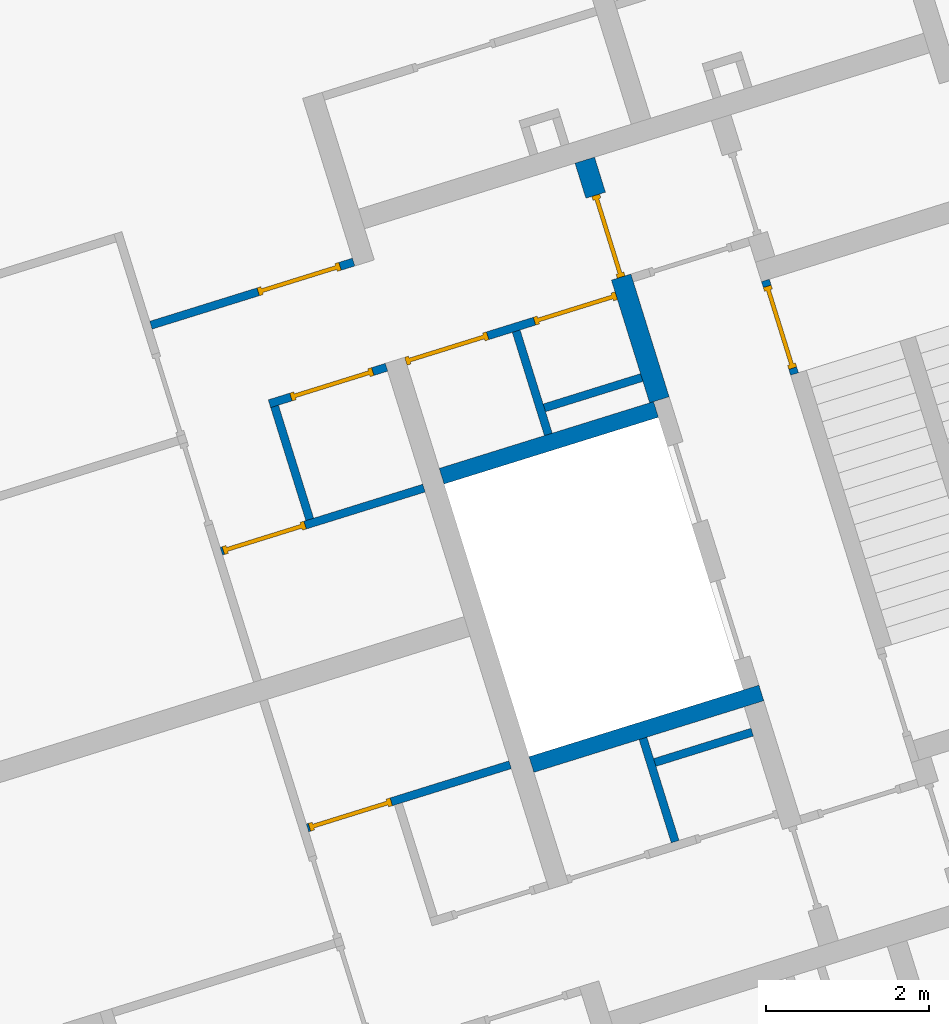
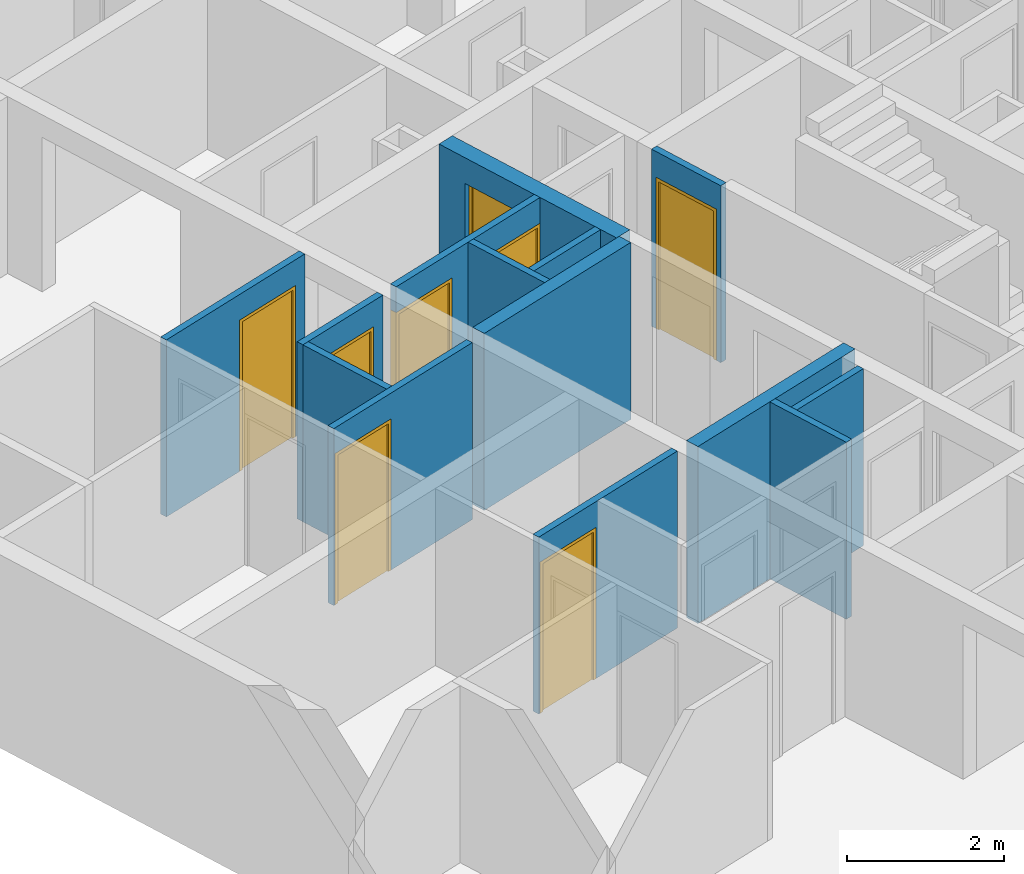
# One storey, part 5 of 12: 14 walls, 8 doors, 8 openings.
"""IFC4 building model written with IfcOpenShell, lengths in metres."""

from ifc_helpers import new_model, entity, si_unit, converted_unit, direction, frame, origin, place, context, subcontext, project, spatial, indexed_curve, outline, extrude, polygons, source, transform, mapped, material, constituent, constituent_set, type_object, type_shapes, element, fill, save


model = new_model("IFC4")

# Units and contexts
model_context = context("Model", 3, precision=1e-05, world=origin(), true_north=direction((6.12323399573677e-17, 1.0)))
body_context = subcontext(model_context, "Body", "Model", "MODEL_VIEW")
ifc_project = project(units=[si_unit("LENGTHUNIT", "METRE"), si_unit("AREAUNIT", "SQUARE_METRE"), si_unit("VOLUMEUNIT", "CUBIC_METRE"), converted_unit("PLANEANGLEUNIT", "DEGREE", entity("IfcPlaneAngleMeasure", 0.0174532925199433), si_unit("PLANEANGLEUNIT", "RADIAN"), dimensions=[0, 0, 0, 0, 0, 0, 0])], contexts=[model_context])

# Site, building, storey
site_placement = place(None, frame((13.1347999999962, 11.9886000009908, 0.0), z_axis=(0.0, 0.0, 1.0), x_axis=(0.954770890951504, 0.297342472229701, 0.0)))
site = spatial("IfcSite", under=ifc_project, at=site_placement, Name="Schiehaven", CompositionType="ELEMENT")
building_placement = place(site_placement, origin())
building = spatial("IfcBuilding", under=site, at=building_placement, Name="VORM huis", CompositionType="ELEMENT")
storey_placement = place(building_placement, frame((0.0, 0.0, 3.9)))
storey = spatial("IfcBuildingStorey", under=building, at=storey_placement, Name="01 eerste verdieping", CompositionType="ELEMENT", Elevation=3.9)

# Walls
ifc_material_1 = material(Name="beton_gewapend_prefab-element", Category="Miscellaneous")
wall_type_1 = type_object("IfcWallType", Name="Basic Wall:28_WA_skelet_wand 200mm_gen", PredefinedType="STANDARD")
wall_1_placement = place(storey_placement, frame((12.6250000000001, 15.2, 0.0)))
element("IfcWall", 1, at=wall_1_placement, inside=storey, type_object=wall_type_1, material=ifc_material_1, Name="Constructieve wand", ObjectType="Wand", PredefinedType="NOTDEFINED", context=body_context, shape_type="SweptSolid", body=[
    extrude(outline(indexed_curve([(2.95, 0.100000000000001), (-3.51397851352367e-16, 0.100000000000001), (3.51397851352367e-16, -0.100000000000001), (2.95, -0.100000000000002), (2.95, 0.100000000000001)], self_intersect=False)), origin(), (0.0, 0.0, 1.0), 2.75),
])
wall_2_placement = place(storey_placement, frame((15.3750000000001, 18.9, 0.0), z_axis=(0.0, 0.0, 1.0), x_axis=(-1.0, 0.0, 0.0)))
element("IfcWall", 2, at=wall_2_placement, inside=storey, type_object=wall_type_1, material=ifc_material_1, Name="Constructieve wand", ObjectType="Wand", PredefinedType="NOTDEFINED", context=body_context, shape_type="SweptSolid", body=[
    extrude(outline(indexed_curve([(2.75, 0.100000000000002), (-2.05391259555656e-16, 0.100000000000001), (2.05391259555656e-16, -0.100000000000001), (2.75, -0.0999999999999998), (2.75, 0.100000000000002)], self_intersect=False)), origin(), (0.0, 0.0, 1.0), 2.75),
])

# Wall, opening, door
ifc_material_2 = material(Name="ntb_ntb_ntb", Category="Miscellaneous")
wall_type_2 = type_object("IfcWallType", Name="Basic Wall:22_WA_afbouw_binnenwand 250mm_gen", PredefinedType="STANDARD")
wall_3_placement = place(storey_placement, frame((15.4500000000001, 19.0, 0.0), z_axis=(0.0, 0.0, 1.0), x_axis=(0.0, 1.0, 0.0)))
wall_3 = element("IfcWall", 3, at=wall_3_placement, inside=storey, type_object=wall_type_2, material=ifc_material_2, Name="Binnenwand", ObjectType="Wand", PredefinedType="NOTDEFINED", context=body_context, shape_type="Tessellation", body=[
    polygons([(2.62500000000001, -0.124999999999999, 2.34999999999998), (2.62500000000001, -0.124999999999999, -5.41433564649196e-16), (3.075, -0.124999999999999, -5.41433564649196e-16), (3.075, -0.124999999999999, 2.75), (1.575, -0.124999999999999, 2.75), (1.475, -0.124999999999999, 2.75), (2.16573425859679e-15, -0.124999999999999, 2.75), (2.16573425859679e-15, -0.124999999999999, -5.41433564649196e-16), (1.475, -0.124999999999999, 0.0), (1.57500000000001, -0.124999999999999, -5.41433564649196e-16), (1.57500000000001, -0.124999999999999, 2.34999999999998), (3.075, 0.125000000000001, -5.41433564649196e-16), (2.62500000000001, 0.125000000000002, -5.41433564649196e-16), (2.62500000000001, 0.125000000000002, 2.34999999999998), (1.575, 0.125000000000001, 2.34999999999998), (1.575, 0.125000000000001, -5.41433564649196e-16), (0.0, 0.125000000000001, -5.41433564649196e-16), (0.0, 0.125000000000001, 2.75), (3.075, 0.125000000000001, 2.75)], [[[1, 2, 3, 4, 5, 6, 7, 8, 9, 10, 11]], [[12, 13, 14, 15, 16, 17, 18, 19]], [[10, 9, 8, 17, 16]], [[4, 3, 12, 19]], [[7, 6, 5, 4, 19, 18]], [[8, 7, 18, 17]], [[16, 15, 11, 10]], [[14, 13, 2, 1]], [[15, 14, 1, 11]], [[3, 2, 13, 12]]], closed=True),
])
opening_1_placement = place(wall_3_placement, frame((2.62500000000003, 0.124999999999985, 0.0)))
opening_1 = element("IfcOpeningElement", 4, at=opening_1_placement, cuts=wall_3, Name="Woningtoegangsdeur", PredefinedType="OPENING", context=body_context, shape_type="SweptSolid", body=[
    extrude(outline(indexed_curve([(2.34999999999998, 1.05), (0.0, 1.05), (0.0, 0.0), (2.34999999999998, 0.0), (2.34999999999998, 1.05)], self_intersect=False)), frame((0.0, 0.0, 0.0), z_axis=(0.0, -1.0, 0.0), x_axis=(0.0, 0.0, 1.0)), (0.0, 0.0, 1.0), 0.25),
])
ifc_material_3 = material(Name="PD_a_binnenwandopeningen", Category="Miscellaneous")
ifc_constituent_1 = constituent(ifc_material_3, Name="PD_a_binnenwandopeningen", Category="Miscellaneous")
ifc_material_4 = material(Name="metaal_aluminium_ntb", Category="Miscellaneous")
ifc_constituent_2 = constituent(ifc_material_4, Name="metaal_aluminium_ntb", Category="Miscellaneous")
ifc_constituent_set_1 = constituent_set(constituents=[ifc_constituent_1, ifc_constituent_2])
door_type_1 = type_object("IfcDoorType", Name="32_DO_binnendeur enkel:woningtoegangsdeur", OperationType="REVOLVING", PredefinedType="DOOR")
shared_shape_1 = source(origin(), body_context, "Body", "SweptSolid", [
    extrude(outline(indexed_curve([(-1.16249999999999, -0.525000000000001), (1.18749999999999, -0.525), (1.18749999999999, 0.525000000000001), (-1.16249999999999, 0.525000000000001), (-1.16249999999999, 0.475), (1.13749999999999, 0.475), (1.13749999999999, -0.475), (-1.16249999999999, -0.475), (-1.16249999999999, -0.525000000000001)], self_intersect=False)), frame((0.525000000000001, 0.0749999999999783, 1.16249999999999), z_axis=(0.0, 1.0, 0.0), x_axis=(0.0, 0.0, 1.0)), (0.0, 0.0, 1.0), 0.1),
    extrude(outline(indexed_curve([(-0.025, -0.475), (0.025, -0.475), (0.025, 0.475), (-0.025, 0.475), (-0.025, -0.475)], self_intersect=False)), frame((0.525000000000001, 0.12499999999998, 0.0), z_axis=(0.0, 0.0, 1.0), x_axis=(0.0, 1.0, 0.0)), (0.0, 0.0, 1.0), 2.29999999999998),
])
type_shapes(door_type_1, [shared_shape_1])
door_1_placement = place(opening_1_placement, frame((0.0, 0.0, 0.0), z_axis=(0.0, 0.0, 1.0), x_axis=(-1.0, 0.0, 0.0)))
door_1 = element("IfcDoor", 5, at=door_1_placement, inside=storey, type_object=door_type_1, material=ifc_constituent_set_1, Name="Woningtoegangsdeur", ObjectType="Deur", OperationType="REVOLVING", OverallHeight=2.34999999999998, OverallWidth=1.05, PredefinedType="DOOR", context=body_context, shape_type="MappedRepresentation", body=[
    mapped(shared_shape_1, transform((0.0, 0.0, 0.0), scale=1.0)),
])
fill(opening_1, door_1)

wall_type_3 = type_object("IfcWallType", Name="Basic Wall:22_WA_afbouw_binnenwand 100mm_gen", PredefinedType="STANDARD")
wall_4_placement = place(storey_placement, frame((17.1250000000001, 20.01, 0.0), z_axis=(0.0, 0.0, 1.0), x_axis=(0.0, -1.0, 0.0)))
wall_4 = element("IfcWall", 6, at=wall_4_placement, inside=storey, type_object=wall_type_3, material=ifc_material_2, Name="Binnenwand", ObjectType="Wand", PredefinedType="NOTDEFINED", context=body_context, shape_type="Tessellation", body=[
    polygons([(1.19999999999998, -0.050000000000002, -5.41433564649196e-16), (1.19999999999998, -0.050000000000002, 2.75), (0.0, -0.0500000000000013, 2.75), (0.0, -0.0500000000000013, -5.41433564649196e-16), (0.0749999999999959, -0.0500000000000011, -5.41433564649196e-16), (0.0749999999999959, -0.0500000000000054, 2.34999999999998), (1.125, -0.0500000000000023, 2.34999999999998), (1.125, -0.0500000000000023, -5.41433564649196e-16), (1.19999999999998, 0.0499999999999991, 2.75), (1.19999999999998, 0.0499999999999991, -5.41433564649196e-16), (1.125, 0.0499999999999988, -5.41433564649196e-16), (1.125, 0.0499999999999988, 2.34999999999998), (0.0749999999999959, 0.0499999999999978, 2.34999999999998), (0.0749999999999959, 0.0499999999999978, -5.41433564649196e-16), (0.0, 0.0500000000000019, -5.41433564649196e-16), (0.0, 0.0500000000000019, 2.75)], [[[1, 2, 3, 4, 5, 6, 7, 8]], [[9, 10, 11, 12, 13, 14, 15, 16]], [[4, 15, 14, 5]], [[2, 1, 10, 9]], [[3, 2, 9, 16]], [[4, 3, 16, 15]], [[13, 6, 5, 14]], [[6, 13, 12, 7]], [[7, 12, 11, 8]], [[10, 1, 8, 11]]], closed=True),
])
opening_2_placement = place(wall_4_placement, frame((0.0749999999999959, -0.0499999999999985, 0.0)))
opening_2 = element("IfcOpeningElement", 7, at=opening_2_placement, cuts=wall_4, Name="Vluchtdeur", PredefinedType="OPENING", context=body_context, shape_type="SweptSolid", body=[
    extrude(outline(indexed_curve([(2.34999999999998, 1.05), (0.0, 1.05), (0.0, -3.51974282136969e-30), (2.34999999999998, -3.51974282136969e-30), (2.34999999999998, 1.05)], self_intersect=False)), frame((0.0, 0.0, 0.0), z_axis=(0.0, 1.0, 0.0), x_axis=(0.0, 0.0, 1.0)), (0.0, 0.0, 1.0), 0.1),
])
ifc_constituent_3 = constituent(ifc_material_3, Name="PD_a_binnenwandopeningen", Category="Miscellaneous")
ifc_constituent_4 = constituent(ifc_material_4, Name="metaal_aluminium_ntb", Category="Miscellaneous")
ifc_constituent_set_2 = constituent_set(constituents=[ifc_constituent_3, ifc_constituent_4])
door_type_2 = type_object("IfcDoorType", Name="32_DO_binnendeur enkel:binnendeur zelfsluitend 30min", OperationType="NOTDEFINED", PredefinedType="DOOR")
shared_shape_2 = source(origin(), body_context, "Body", "SweptSolid", [
    extrude(outline(indexed_curve([(-1.16249999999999, -0.525000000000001), (1.18749999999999, -0.525), (1.18749999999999, 0.525), (-1.16249999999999, 0.525), (-1.16249999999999, 0.475), (1.13749999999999, 0.475), (1.13749999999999, -0.475), (-1.16249999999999, -0.475), (-1.16249999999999, -0.525000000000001)], self_intersect=False)), frame((0.525000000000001, 0.0, 1.16249999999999), z_axis=(0.0, 1.0, 0.0), x_axis=(0.0, 0.0, 1.0)), (0.0, 0.0, 1.0), 0.1),
    extrude(outline(indexed_curve([(-0.025, -0.475), (0.025, -0.475), (0.025, 0.475), (-0.025, 0.475), (-0.025, -0.475)], self_intersect=False)), frame((0.525000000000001, 0.0499999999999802, 0.0), z_axis=(0.0, 0.0, 1.0), x_axis=(0.0, 1.0, 0.0)), (0.0, 0.0, 1.0), 2.29999999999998),
])
type_shapes(door_type_2, [shared_shape_2])
door_2_placement = place(opening_2_placement, origin())
door_2 = element("IfcDoor", 8, at=door_2_placement, inside=storey, type_object=door_type_2, material=ifc_constituent_set_2, Name="Vluchtdeur", ObjectType="Deur", OperationType="NOTDEFINED", OverallHeight=2.34999999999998, OverallWidth=1.05, PredefinedType="DOOR", context=body_context, shape_type="MappedRepresentation", body=[
    mapped(shared_shape_2, transform((0.0, 0.0, 0.0), scale=1.0)),
])
fill(opening_2, door_2)

wall_5_placement = place(storey_placement, frame((9.77500000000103, 15.275, 0.0)))
wall_5 = element("IfcWall", 9, at=wall_5_placement, inside=storey, type_object=wall_type_3, material=ifc_material_2, Name="Binnenwand", ObjectType="Wand", PredefinedType="NOTDEFINED", context=body_context, shape_type="Tessellation", body=[
    polygons([(1.07500000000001, -0.0499999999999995, 2.34999999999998), (1.07500000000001, -0.0499999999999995, -5.41433564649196e-16), (1.1, -0.0499999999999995, 0.0), (1.2, -0.0499999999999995, 0.0), (2.59999999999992, -0.0499999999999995, -5.41433564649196e-16), (2.59999999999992, -0.0499999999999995, 2.75), (1.2, -0.0499999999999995, 2.75), (1.1, -0.0499999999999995, 2.75), (4.07664011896e-16, -0.0499999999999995, 2.75), (4.07664011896e-16, -0.0499999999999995, -5.41433564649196e-16), (0.025000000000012, -0.0499999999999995, -5.41433564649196e-16), (0.025000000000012, -0.0499999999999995, 2.34999999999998), (2.59999999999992, 0.0499999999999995, -5.41433564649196e-16), (1.07500000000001, 0.0499999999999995, -5.41433564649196e-16), (1.07500000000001, 0.0499999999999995, 2.34999999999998), (0.0250000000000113, 0.0499999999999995, 2.34999999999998), (0.0250000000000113, 0.0499999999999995, -5.41433564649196e-16), (-3.72025447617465e-16, 0.0499999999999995, -5.41433564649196e-16), (-3.72025447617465e-16, 0.0499999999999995, 2.75), (2.59999999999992, 0.0499999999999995, 2.75)], [[[1, 2, 3, 4, 5, 6, 7, 8, 9, 10, 11, 12]], [[13, 14, 15, 16, 17, 18, 19, 20]], [[11, 10, 18, 17]], [[6, 5, 13, 20]], [[9, 8, 7, 6, 20, 19]], [[17, 16, 12, 11]], [[15, 14, 2, 1]], [[16, 15, 1, 12]], [[10, 9, 19, 18]], [[5, 4, 3, 2, 14, 13]]], closed=True),
])
opening_3_placement = place(wall_5_placement, frame((1.07500000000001, 0.0499999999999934, 0.0)))
opening_3 = element("IfcOpeningElement", 10, at=opening_3_placement, cuts=wall_5, Name="Binnendeur", PredefinedType="OPENING", context=body_context, shape_type="SweptSolid", body=[
    extrude(outline(indexed_curve([(2.34999999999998, 1.05), (0.0, 1.05), (0.0, 1.35358391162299e-15), (2.34999999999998, 1.35358391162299e-15), (2.34999999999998, 1.05)], self_intersect=False)), frame((0.0, 0.0, 0.0), z_axis=(0.0, -1.0, 0.0), x_axis=(0.0, 0.0, 1.0)), (0.0, 0.0, 1.0), 0.1),
])
ifc_constituent_5 = constituent(ifc_material_3, Name="PD_a_binnenwandopeningen", Category="Miscellaneous")
ifc_constituent_6 = constituent(ifc_material_4, Name="metaal_aluminium_ntb", Category="Miscellaneous")
ifc_constituent_set_3 = constituent_set(constituents=[ifc_constituent_5, ifc_constituent_6])
door_type_3 = type_object("IfcDoorType", Name="32_DO_binnendeur enkel:binnendeur", OperationType="REVOLVING", PredefinedType="DOOR")
shared_shape_3 = source(origin(), body_context, "Body", "SweptSolid", [
    extrude(outline(indexed_curve([(-1.16249999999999, -0.525000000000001), (1.18749999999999, -0.525), (1.18749999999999, 0.525), (-1.16249999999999, 0.525), (-1.16249999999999, 0.475), (1.13749999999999, 0.475), (1.13749999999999, -0.475), (-1.16249999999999, -0.475), (-1.16249999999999, -0.525000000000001)], self_intersect=False)), frame((0.525000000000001, 0.0, 1.16249999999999), z_axis=(0.0, 1.0, 0.0), x_axis=(0.0, 0.0, 1.0)), (0.0, 0.0, 1.0), 0.1),
    extrude(outline(indexed_curve([(-0.025, -0.475), (0.025, -0.475), (0.025, 0.475), (-0.025, 0.475), (-0.025, -0.475)], self_intersect=False)), frame((0.525000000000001, 0.0499999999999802, 0.0), z_axis=(0.0, 0.0, 1.0), x_axis=(0.0, 1.0, 0.0)), (0.0, 0.0, 1.0), 2.29999999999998),
])
type_shapes(door_type_3, [shared_shape_3])
door_3_placement = place(opening_3_placement, frame((0.0, 0.0, 0.0), z_axis=(0.0, 0.0, 1.0), x_axis=(-1.0, 0.0, 0.0)))
door_3 = element("IfcDoor", 11, at=door_3_placement, inside=storey, type_object=door_type_3, material=ifc_constituent_set_3, Name="Binnendeur", ObjectType="Deur", OperationType="REVOLVING", OverallHeight=2.34999999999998, OverallWidth=1.05, PredefinedType="DOOR", context=body_context, shape_type="MappedRepresentation", body=[
    mapped(shared_shape_3, transform((0.0, 0.0, 0.0), scale=1.0)),
])
fill(opening_3, door_3)

# Walls
wall_6_placement = place(storey_placement, frame((15.3250000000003, 14.7749999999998, 0.0), z_axis=(0.0, 0.0, 1.0), x_axis=(-1.0, 0.0, 0.0)))
element("IfcWall", 12, at=wall_6_placement, inside=storey, type_object=wall_type_3, material=ifc_material_2, Name="Binnenwand", ObjectType="Wand", PredefinedType="NOTDEFINED", context=body_context, shape_type="SweptSolid", body=[
    extrude(outline(indexed_curve([(1.24999999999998, 0.0499999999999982), (-6.43958434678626e-16, 0.0499999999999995), (6.43958434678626e-16, -0.0499999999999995), (1.24999999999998, -0.0500000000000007), (1.24999999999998, 0.0499999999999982)], self_intersect=False)), origin(), (0.0, 0.0, 1.0), 2.75),
])
wall_7_placement = place(storey_placement, frame((14.0250000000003, 13.7749999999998, 0.0), z_axis=(0.0, 0.0, 1.0), x_axis=(0.0, 1.0, 0.0)))
element("IfcWall", 13, at=wall_7_placement, inside=storey, type_object=wall_type_3, material=ifc_material_2, Name="Binnenwand", ObjectType="Wand", PredefinedType="NOTDEFINED", context=body_context, shape_type="SweptSolid", body=[
    extrude(outline(indexed_curve([(1.32500000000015, 0.0499999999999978), (-4.26239117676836e-16, 0.0499999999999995), (4.26239117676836e-16, -0.0499999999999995), (1.32500000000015, -0.0500000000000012), (1.32500000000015, 0.0499999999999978)], self_intersect=False)), origin(), (0.0, 0.0, 1.0), 2.75),
])

# Wall, opening, door
wall_8_placement = place(storey_placement, frame((9.77500000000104, 18.825, 0.0)))
wall_8 = element("IfcWall", 14, at=wall_8_placement, inside=storey, type_object=wall_type_3, material=ifc_material_2, Name="Binnenwand", ObjectType="Wand", PredefinedType="NOTDEFINED", context=body_context, shape_type="Tessellation", body=[
    polygons([(1.07500000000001, -0.0499999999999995, 2.34999999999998), (1.07500000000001, -0.0499999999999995, -5.41433564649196e-16), (2.59999999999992, -0.0500000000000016, -5.41433564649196e-16), (2.59999999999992, -0.0500000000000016, 2.75), (9.56593324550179e-16, -0.0500000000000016, 2.75), (9.56593324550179e-16, -0.0500000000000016, -5.41433564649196e-16), (0.0250000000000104, -0.0500000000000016, -5.41433564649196e-16), (0.0250000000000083, -0.0500000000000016, 2.34999999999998), (2.59999999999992, 0.0499999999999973, -5.41433564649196e-16), (1.2, 0.0499999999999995, 0.0), (1.1, 0.0499999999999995, 0.0), (1.07500000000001, 0.0499999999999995, -5.41433564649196e-16), (1.07500000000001, 0.0499999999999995, 2.34999999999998), (0.0250000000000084, 0.0499999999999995, 2.34999999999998), (0.0250000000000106, 0.0499999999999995, -5.41433564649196e-16), (1.0885755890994e-15, 0.0499999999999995, -5.41433564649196e-16), (1.0885755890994e-15, 0.0499999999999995, 2.75), (1.1, 0.0499999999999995, 2.75), (1.2, 0.0499999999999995, 2.75), (2.59999999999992, 0.0499999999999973, 2.75)], [[[1, 2, 3, 4, 5, 6, 7, 8]], [[9, 10, 11, 12, 13, 14, 15, 16, 17, 18, 19, 20]], [[7, 6, 16, 15]], [[4, 3, 9, 20]], [[5, 4, 20, 19, 18, 17]], [[15, 14, 8, 7]], [[13, 12, 2, 1]], [[14, 13, 1, 8]], [[6, 5, 17, 16]], [[3, 2, 12, 11, 10, 9]]], closed=True),
])
opening_4_placement = place(wall_8_placement, frame((0.0250000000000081, -0.0500000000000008, 0.0)))
opening_4 = element("IfcOpeningElement", 15, at=opening_4_placement, cuts=wall_8, Name="Binnendeur", PredefinedType="OPENING", context=body_context, shape_type="SweptSolid", body=[
    extrude(outline(indexed_curve([(2.34999999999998, 1.35358391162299e-15), (2.34999999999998, 1.05), (0.0, 1.05), (0.0, 1.35358391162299e-15), (2.34999999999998, 1.35358391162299e-15)], self_intersect=False)), frame((0.0, 0.0, 0.0), z_axis=(0.0, 1.0, 0.0), x_axis=(0.0, 0.0, 1.0)), (0.0, 0.0, 1.0), 0.1),
])
ifc_constituent_7 = constituent(ifc_material_3, Name="PD_a_binnenwandopeningen", Category="Miscellaneous")
ifc_constituent_8 = constituent(ifc_material_4, Name="metaal_aluminium_ntb", Category="Miscellaneous")
ifc_constituent_set_4 = constituent_set(constituents=[ifc_constituent_7, ifc_constituent_8])
shared_shape_4 = source(origin(), body_context, "Body", "SweptSolid", [
    extrude(outline(indexed_curve([(0.475, -1.16249999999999), (0.525, -1.16249999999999), (0.525, 1.18749999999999), (-0.525, 1.18749999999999), (-0.525, -1.16249999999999), (-0.475, -1.16249999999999), (-0.475, 1.13749999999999), (0.475, 1.13749999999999), (0.475, -1.16249999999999)], self_intersect=False)), frame((0.525000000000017, 0.100000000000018, 1.16249999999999), z_axis=(0.0, -1.0, 0.0), x_axis=(1.0, 0.0, 0.0)), (0.0, 0.0, 1.0), 0.1),
    extrude(outline(indexed_curve([(-0.475, -0.025), (0.475, -0.025), (0.475, 0.025), (-0.475, 0.025), (-0.475, -0.025)], self_intersect=False)), frame((0.525000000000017, 0.0499999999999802, 0.0)), (0.0, 0.0, 1.0), 2.29999999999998),
])
door_4_placement = place(opening_4_placement, origin())
door_4 = element("IfcDoor", 16, at=door_4_placement, inside=storey, type_object=door_type_3, material=ifc_constituent_set_4, Name="Binnendeur", ObjectType="Deur", OperationType="REVOLVING", OverallHeight=2.34999999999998, OverallWidth=1.05, PredefinedType="DOOR", context=body_context, shape_type="MappedRepresentation", body=[
    mapped(shared_shape_4, transform((0.0, 0.0, 0.0), scale=1.0)),
])
fill(opening_4, door_4)

# Wall
wall_9_placement = place(storey_placement, frame((10.925000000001, 18.875, 0.0), z_axis=(0.0, 0.0, 1.0), x_axis=(0.0, 1.0, 0.0)))
element("IfcWall", 17, at=wall_9_placement, inside=storey, type_object=wall_type_3, material=ifc_material_2, Name="Binnenwand", ObjectType="Wand", PredefinedType="NOTDEFINED", context=body_context, shape_type="SweptSolid", body=[
    extrude(outline(indexed_curve([(1.4500000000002, 0.0499999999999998), (1.39414112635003e-16, 0.0499999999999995), (-1.39414112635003e-16, -0.0499999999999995), (1.4500000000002, -0.0499999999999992), (1.4500000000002, 0.0499999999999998)], self_intersect=False)), origin(), (0.0, 0.0, 1.0), 2.75),
])

# Wall, openings, doors
wall_10_placement = place(storey_placement, frame((15.3250000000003, 20.3750000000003, 0.0), z_axis=(0.0, 0.0, 1.0), x_axis=(-1.0, 0.0, 0.0)))
wall_10 = element("IfcWall", 18, at=wall_10_placement, inside=storey, type_object=wall_type_3, material=ifc_material_2, Name="Binnenwand", ObjectType="Wand", PredefinedType="NOTDEFINED", context=body_context, shape_type="Tessellation", body=[
    polygons([(2.70000000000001, -0.0499999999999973, 2.75), (-8.18770478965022e-16, -0.0499999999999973, 2.75), (-8.18770478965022e-16, -0.0499999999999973, 2.34999999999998), (1.05, -0.0500000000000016, 2.34999999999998), (1.05, -0.0500000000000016, -5.41433564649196e-16), (1.65000000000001, -0.0500000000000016, -5.41433564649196e-16), (1.65000000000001, -0.0500000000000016, 2.34999999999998), (2.70000000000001, -0.0499999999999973, 2.34999999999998), (-1.78560804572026e-16, 0.0500000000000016, 2.75), (1.24999999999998, 0.0500000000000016, 2.75), (1.34999999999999, 0.0500000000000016, 2.75), (2.70000000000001, 0.0500000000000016, 2.75), (2.70000000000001, 0.0500000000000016, 2.34999999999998), (1.65000000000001, 0.0499999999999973, 2.34999999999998), (1.65000000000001, 0.0499999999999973, -5.41433564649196e-16), (1.34999999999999, 0.0500000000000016, 0.0), (1.24999999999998, 0.0500000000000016, 0.0), (1.05, 0.0499999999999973, -5.41433564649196e-16), (1.05, 0.0499999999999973, 2.34999999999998), (-1.78560804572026e-16, 0.0500000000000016, 2.34999999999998)], [[[1, 2, 3, 4, 5, 6, 7, 8]], [[9, 10, 11, 12, 13, 14, 15, 16, 17, 18, 19, 20]], [[5, 18, 17, 16, 15, 6]], [[12, 1, 8, 13]], [[2, 1, 12, 11, 10, 9]], [[2, 9, 20, 3]], [[4, 19, 18, 5]], [[19, 4, 3, 20]], [[14, 7, 6, 15]], [[7, 14, 13, 8]]], closed=True),
])
opening_5_placement = place(wall_10_placement, frame((1.05, 0.0500000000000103, 0.0)))
opening_5 = element("IfcOpeningElement", 19, at=opening_5_placement, cuts=wall_10, Name="Binnendeur", PredefinedType="OPENING", context=body_context, shape_type="SweptSolid", body=[
    extrude(outline(indexed_curve([(2.34999999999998, 1.35358391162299e-15), (2.34999999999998, 1.05), (0.0, 1.05), (0.0, 1.35358391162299e-15), (2.34999999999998, 1.35358391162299e-15)], self_intersect=False)), frame((0.0, 0.0, 0.0), z_axis=(0.0, -1.0, 0.0), x_axis=(0.0, 0.0, 1.0)), (0.0, 0.0, 1.0), 0.1),
])
opening_6_placement = place(wall_10_placement, frame((2.70000000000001, 0.050000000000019, 0.0)))
opening_6 = element("IfcOpeningElement", 20, at=opening_6_placement, cuts=wall_10, Name="Binnendeur", PredefinedType="OPENING", context=body_context, shape_type="SweptSolid", body=[
    extrude(outline(indexed_curve([(2.34999999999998, 1.08286712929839e-15), (2.34999999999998, 1.05), (0.0, 1.05), (0.0, 1.08286712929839e-15), (2.34999999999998, 1.08286712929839e-15)], self_intersect=False)), frame((0.0, 0.0, 0.0), z_axis=(0.0, -1.0, 0.0), x_axis=(0.0, 0.0, 1.0)), (0.0, 0.0, 1.0), 0.1),
])
ifc_constituent_9 = constituent(ifc_material_3, Name="PD_a_binnenwandopeningen", Category="Miscellaneous")
ifc_constituent_10 = constituent(ifc_material_4, Name="metaal_aluminium_ntb", Category="Miscellaneous")
ifc_constituent_set_5 = constituent_set(constituents=[ifc_constituent_9, ifc_constituent_10])
door_5_placement = place(opening_5_placement, frame((0.0, 0.0, 0.0), z_axis=(0.0, 0.0, 1.0), x_axis=(-1.0, 0.0, 0.0)))
door_5 = element("IfcDoor", 21, at=door_5_placement, inside=storey, type_object=door_type_3, material=ifc_constituent_set_5, Name="Binnendeur", ObjectType="Deur", OperationType="REVOLVING", OverallHeight=2.34999999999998, OverallWidth=1.05, PredefinedType="DOOR", context=body_context, shape_type="MappedRepresentation", body=[
    mapped(shared_shape_4, transform((0.0, 0.0, 0.0), scale=1.0)),
])
fill(opening_5, door_5)
ifc_constituent_11 = constituent(ifc_material_3, Name="PD_a_binnenwandopeningen", Category="Miscellaneous")
ifc_constituent_12 = constituent(ifc_material_4, Name="metaal_aluminium_ntb", Category="Miscellaneous")
ifc_constituent_set_6 = constituent_set(constituents=[ifc_constituent_11, ifc_constituent_12])
door_6_placement = place(opening_6_placement, frame((0.0, 0.0, 0.0), z_axis=(0.0, 0.0, 1.0), x_axis=(-1.0, 0.0, 0.0)))
door_6 = element("IfcDoor", 22, at=door_6_placement, inside=storey, type_object=door_type_3, material=ifc_constituent_set_6, Name="Binnendeur", ObjectType="Deur", OperationType="REVOLVING", OverallHeight=2.34999999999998, OverallWidth=1.05, PredefinedType="DOOR", context=body_context, shape_type="MappedRepresentation", body=[
    mapped(shared_shape_4, transform((0.0, 0.0, 0.0), scale=1.0)),
])
fill(opening_6, door_6)

# Walls
wall_11_placement = place(storey_placement, frame((15.3250000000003, 19.3250000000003, 0.0), z_axis=(0.0, 0.0, 1.0), x_axis=(-1.0, 0.0, 0.0)))
element("IfcWall", 23, at=wall_11_placement, inside=storey, type_object=wall_type_3, material=ifc_material_2, Name="Binnenwand", ObjectType="Wand", PredefinedType="NOTDEFINED", context=body_context, shape_type="SweptSolid", body=[
    extrude(outline(indexed_curve([(1.24999999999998, 0.049999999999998), (3.20104837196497e-16, 0.0499999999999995), (-3.20104837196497e-16, -0.0499999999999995), (1.24999999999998, -0.050000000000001), (1.24999999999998, 0.049999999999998)], self_intersect=False)), origin(), (0.0, 0.0, 1.0), 2.75),
])
wall_12_placement = place(storey_placement, frame((14.0250000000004, 20.3250000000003, 0.0), z_axis=(0.0, 0.0, 1.0), x_axis=(0.0, -1.0, 0.0)))
element("IfcWall", 24, at=wall_12_placement, inside=storey, type_object=wall_type_3, material=ifc_material_2, Name="Binnenwand", ObjectType="Wand", PredefinedType="NOTDEFINED", context=body_context, shape_type="SweptSolid", body=[
    extrude(outline(indexed_curve([(1.32500000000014, 0.0499999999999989), (1.02385520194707e-16, 0.0499999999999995), (-1.02385520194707e-16, -0.0499999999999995), (1.32500000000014, -0.05), (1.32500000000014, 0.0499999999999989)], self_intersect=False)), origin(), (0.0, 0.0, 1.0), 2.75),
])

# Wall, opening, door
wall_13_placement = place(storey_placement, frame((12.3771642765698, 20.3750000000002, 0.0), z_axis=(0.0, 0.0, 1.0), x_axis=(-1.0, 0.0, 0.0)))
wall_13 = element("IfcWall", 25, at=wall_13_placement, inside=storey, type_object=wall_type_3, material=ifc_material_2, Name="Binnenwand", ObjectType="Wand", PredefinedType="NOTDEFINED", context=body_context, shape_type="Tessellation", body=[
    polygons([(4.07805619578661e-16, -0.0499999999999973, -5.41433564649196e-16), (0.176082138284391, -0.0500000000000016, -5.41433564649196e-16), (0.176082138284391, -0.0500000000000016, 2.34999999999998), (1.22608213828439, -0.0499999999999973, 2.34999999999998), (1.22608213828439, -0.0499999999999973, -5.41433564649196e-16), (1.50216427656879, -0.0500000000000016, -5.41433564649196e-16), (1.50216427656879, -0.0500000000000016, 2.75), (4.07805619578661e-16, -0.0499999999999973, 2.75), (0.176082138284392, 0.0499999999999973, 2.34999999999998), (0.176082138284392, 0.0499999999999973, -5.41433564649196e-16), (1.06321672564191e-15, 0.0500000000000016, -5.41433564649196e-16), (1.06321672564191e-15, 0.0500000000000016, 2.75), (1.40216427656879, 0.0500000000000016, 2.75), (1.50216427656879, 0.0499999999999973, 2.75), (1.50216427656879, 0.0499999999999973, -5.41433564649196e-16), (1.40216427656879, 0.0500000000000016, 0.0), (1.22608213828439, 0.0500000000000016, -5.41433564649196e-16), (1.22608213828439, 0.0500000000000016, 2.34999999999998)], [[[1, 2, 3, 4, 5, 6, 7, 8]], [[9, 10, 11, 12, 13, 14, 15, 16, 17, 18]], [[11, 10, 2, 1]], [[8, 7, 14, 13, 12]], [[1, 8, 12, 11]], [[5, 4, 18, 17]], [[3, 2, 10, 9]], [[4, 3, 9, 18]], [[7, 6, 15, 14]], [[17, 16, 15, 6, 5]]], closed=True),
])
opening_7_placement = place(wall_13_placement, frame((1.22608213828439, 0.050000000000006, 0.0)))
opening_7 = element("IfcOpeningElement", 26, at=opening_7_placement, cuts=wall_13, Name="Binnendeur", PredefinedType="OPENING", context=body_context, shape_type="SweptSolid", body=[
    extrude(outline(indexed_curve([(2.34999999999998, 1.35358391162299e-15), (2.34999999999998, 1.05), (0.0, 1.05), (0.0, 1.35358391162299e-15), (2.34999999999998, 1.35358391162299e-15)], self_intersect=False)), frame((0.0, 0.0, 0.0), z_axis=(0.0, -1.0, 0.0), x_axis=(0.0, 0.0, 1.0)), (0.0, 0.0, 1.0), 0.1),
])
ifc_constituent_13 = constituent(ifc_material_3, Name="PD_a_binnenwandopeningen", Category="Miscellaneous")
ifc_constituent_14 = constituent(ifc_material_4, Name="metaal_aluminium_ntb", Category="Miscellaneous")
ifc_constituent_set_7 = constituent_set(constituents=[ifc_constituent_13, ifc_constituent_14])
door_7_placement = place(opening_7_placement, frame((0.0, 0.0, 0.0), z_axis=(0.0, 0.0, 1.0), x_axis=(-1.0, 0.0, 0.0)))
door_7 = element("IfcDoor", 27, at=door_7_placement, inside=storey, type_object=door_type_3, material=ifc_constituent_set_7, Name="Binnendeur", ObjectType="Deur", OperationType="REVOLVING", OverallHeight=2.34999999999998, OverallWidth=1.05, PredefinedType="DOOR", context=body_context, shape_type="MappedRepresentation", body=[
    mapped(shared_shape_4, transform((0.0, 0.0, 0.0), scale=1.0)),
])
fill(opening_7, door_7)

wall_14_placement = place(storey_placement, frame((9.77500000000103, 21.7250000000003, 0.0)))
wall_14 = element("IfcWall", 28, at=wall_14_placement, inside=storey, type_object=wall_type_3, material=ifc_material_2, Name="Binnenwand", ObjectType="Wand", PredefinedType="NOTDEFINED", context=body_context, shape_type="Tessellation", body=[
    polygons([(2.4260821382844, -0.0500000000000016, 2.34999999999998), (2.4260821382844, -0.0500000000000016, 0.0), (2.59999999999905, -0.0499999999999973, 0.0), (2.59999999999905, -0.0499999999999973, 2.75), (3.82192300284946e-16, -0.0499999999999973, 2.75), (3.82192300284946e-16, -0.0499999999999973, 0.0), (1.3760821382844, -0.0499999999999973, 0.0), (1.3760821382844, -0.0499999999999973, 2.34999999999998), (2.59999999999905, 0.0500000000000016, 0.0), (2.4260821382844, 0.0499999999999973, 0.0), (2.4260821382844, 0.0499999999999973, 2.34999999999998), (1.3760821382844, 0.0500000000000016, 2.34999999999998), (1.3760821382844, 0.0500000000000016, 0.0), (-2.65514894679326e-16, 0.0500000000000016, 0.0), (-2.65514894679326e-16, 0.0500000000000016, 2.75), (2.59999999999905, 0.0500000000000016, 2.75)], [[[1, 2, 3, 4, 5, 6, 7, 8]], [[9, 10, 11, 12, 13, 14, 15, 16]], [[7, 6, 14, 13]], [[4, 3, 9, 16]], [[5, 4, 16, 15]], [[6, 5, 15, 14]], [[13, 12, 8, 7]], [[11, 10, 2, 1]], [[12, 11, 1, 8]], [[3, 2, 10, 9]]], closed=True),
])
opening_8_placement = place(wall_14_placement, frame((2.4260821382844, 0.0499999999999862, 0.0)))
opening_8 = element("IfcOpeningElement", 29, at=opening_8_placement, cuts=wall_14, Name="Binnendeur", PredefinedType="OPENING", context=body_context, shape_type="SweptSolid", body=[
    extrude(outline(indexed_curve([(2.34999999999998, 1.05), (0.0, 1.05), (0.0, 1.35358391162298e-15), (2.34999999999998, 1.35358391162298e-15), (2.34999999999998, 1.05)], self_intersect=False)), frame((0.0, 0.0, 0.0), z_axis=(0.0, -1.0, 0.0), x_axis=(0.0, 0.0, 1.0)), (0.0, 0.0, 1.0), 0.1),
])
ifc_constituent_15 = constituent(ifc_material_3, Name="PD_a_binnenwandopeningen", Category="Miscellaneous")
ifc_constituent_16 = constituent(ifc_material_4, Name="metaal_aluminium_ntb", Category="Miscellaneous")
ifc_constituent_set_8 = constituent_set(constituents=[ifc_constituent_15, ifc_constituent_16])
door_8_placement = place(opening_8_placement, frame((0.0, 0.0, 0.0), z_axis=(0.0, 0.0, 1.0), x_axis=(-1.0, 0.0, 0.0)))
door_8 = element("IfcDoor", 30, at=door_8_placement, inside=storey, type_object=door_type_3, material=ifc_constituent_set_8, Name="Binnendeur", ObjectType="Deur", OperationType="REVOLVING", OverallHeight=2.34999999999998, OverallWidth=1.05, PredefinedType="DOOR", context=body_context, shape_type="MappedRepresentation", body=[
    mapped(shared_shape_3, transform((0.0, 0.0, 0.0), scale=1.0)),
])
fill(opening_8, door_8)

save(model, "model.ifc")
